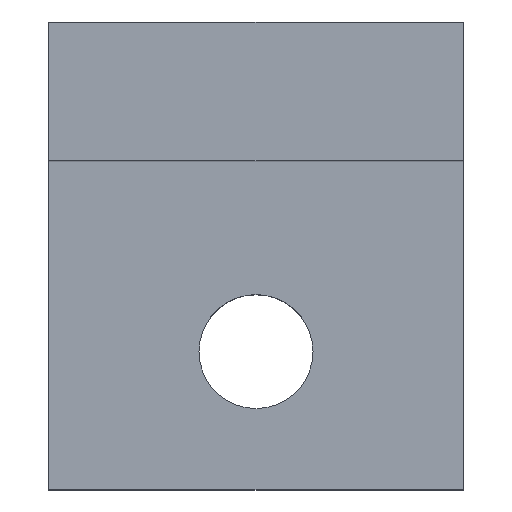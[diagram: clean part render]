
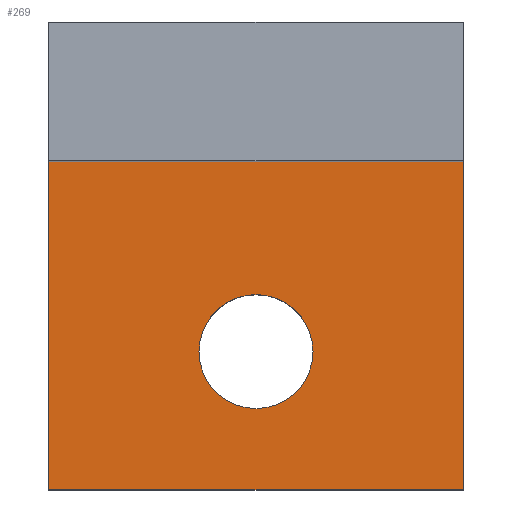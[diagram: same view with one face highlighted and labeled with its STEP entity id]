
A CAD part, top view. The second image highlights one B-rep face of the part: STEP entity #269.
In plain terms, the highlighted planar face has unit normal (0, 0, 1).
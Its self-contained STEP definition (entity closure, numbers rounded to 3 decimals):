
#21 = EDGE_CURVE('',#22,#24,#26,.T.);
#22 = VERTEX_POINT('',#23);
#23 = CARTESIAN_POINT('',(52.,8.5,39.));
#24 = VERTEX_POINT('',#25);
#25 = CARTESIAN_POINT('',(52.,-1.,39.));
#26 = SURFACE_CURVE('',#27,(#31,#43),.PCURVE_S1.);
#27 = LINE('',#28,#29);
#28 = CARTESIAN_POINT('',(52.,-1.,39.));
#29 = VECTOR('',#30,1.);
#30 = DIRECTION('',(0.,-1.,0.));
#31 = PCURVE('',#32,#37);
#32 = PLANE('',#33);
#33 = AXIS2_PLACEMENT_3D('',#34,#35,#36);
#34 = CARTESIAN_POINT('',(52.,-1.,35.));
#35 = DIRECTION('',(1.,0.,0.));
#36 = DIRECTION('',(0.,0.,1.));
#37 = DEFINITIONAL_REPRESENTATION('',(#38),#42);
#38 = LINE('',#39,#40);
#39 = CARTESIAN_POINT('',(4.,0.));
#40 = VECTOR('',#41,1.);
#41 = DIRECTION('',(0.,1.));
#42 = ( GEOMETRIC_REPRESENTATION_CONTEXT(2) 
PARAMETRIC_REPRESENTATION_CONTEXT() REPRESENTATION_CONTEXT('2D SPACE',''
  ) );
#43 = PCURVE('',#44,#49);
#44 = PLANE('',#45);
#45 = AXIS2_PLACEMENT_3D('',#46,#47,#48);
#46 = CARTESIAN_POINT('',(52.,-1.,39.));
#47 = DIRECTION('',(0.,0.,1.));
#48 = DIRECTION('',(1.,0.,0.));
#49 = DEFINITIONAL_REPRESENTATION('',(#50),#54);
#50 = LINE('',#51,#52);
#51 = CARTESIAN_POINT('',(0.,0.));
#52 = VECTOR('',#53,1.);
#53 = DIRECTION('',(0.,-1.));
#54 = ( GEOMETRIC_REPRESENTATION_CONTEXT(2) 
PARAMETRIC_REPRESENTATION_CONTEXT() REPRESENTATION_CONTEXT('2D SPACE',''
  ) );
#72 = PLANE('',#73);
#73 = AXIS2_PLACEMENT_3D('',#74,#75,#76);
#74 = CARTESIAN_POINT('',(52.,8.5,39.));
#75 = DIRECTION('',(0.,1.,0.));
#76 = DIRECTION('',(0.,0.,1.));
#182 = PLANE('',#183);
#183 = AXIS2_PLACEMENT_3D('',#184,#185,#186);
#184 = CARTESIAN_POINT('',(52.,-1.,35.));
#185 = DIRECTION('',(0.,1.,0.));
#186 = DIRECTION('',(0.,0.,1.));
#200 = VERTEX_POINT('',#201);
#201 = CARTESIAN_POINT('',(64.,-1.,39.));
#215 = PLANE('',#216);
#216 = AXIS2_PLACEMENT_3D('',#217,#218,#219);
#217 = CARTESIAN_POINT('',(64.,-1.,35.));
#218 = DIRECTION('',(1.,0.,0.));
#219 = DIRECTION('',(0.,0.,1.));
#227 = EDGE_CURVE('',#24,#200,#228,.T.);
#228 = SURFACE_CURVE('',#229,(#233,#240),.PCURVE_S1.);
#229 = LINE('',#230,#231);
#230 = CARTESIAN_POINT('',(52.,-1.,39.));
#231 = VECTOR('',#232,1.);
#232 = DIRECTION('',(1.,0.,0.));
#233 = PCURVE('',#182,#234);
#234 = DEFINITIONAL_REPRESENTATION('',(#235),#239);
#235 = LINE('',#236,#237);
#236 = CARTESIAN_POINT('',(4.,0.));
#237 = VECTOR('',#238,1.);
#238 = DIRECTION('',(0.,1.));
#239 = ( GEOMETRIC_REPRESENTATION_CONTEXT(2) 
PARAMETRIC_REPRESENTATION_CONTEXT() REPRESENTATION_CONTEXT('2D SPACE',''
  ) );
#240 = PCURVE('',#44,#241);
#241 = DEFINITIONAL_REPRESENTATION('',(#242),#246);
#242 = LINE('',#243,#244);
#243 = CARTESIAN_POINT('',(0.,0.));
#244 = VECTOR('',#245,1.);
#245 = DIRECTION('',(1.,0.));
#246 = ( GEOMETRIC_REPRESENTATION_CONTEXT(2) 
PARAMETRIC_REPRESENTATION_CONTEXT() REPRESENTATION_CONTEXT('2D SPACE',''
  ) );
#269 = ADVANCED_FACE('',(#270,#318),#44,.T.);
#270 = FACE_BOUND('',#271,.T.);
#271 = EDGE_LOOP('',(#272,#273,#274,#297));
#272 = ORIENTED_EDGE('',*,*,#21,.T.);
#273 = ORIENTED_EDGE('',*,*,#227,.T.);
#274 = ORIENTED_EDGE('',*,*,#275,.T.);
#275 = EDGE_CURVE('',#200,#276,#278,.T.);
#276 = VERTEX_POINT('',#277);
#277 = CARTESIAN_POINT('',(64.,8.5,39.));
#278 = SURFACE_CURVE('',#279,(#283,#290),.PCURVE_S1.);
#279 = LINE('',#280,#281);
#280 = CARTESIAN_POINT('',(64.,-1.,39.));
#281 = VECTOR('',#282,1.);
#282 = DIRECTION('',(0.,1.,0.));
#283 = PCURVE('',#44,#284);
#284 = DEFINITIONAL_REPRESENTATION('',(#285),#289);
#285 = LINE('',#286,#287);
#286 = CARTESIAN_POINT('',(12.,0.));
#287 = VECTOR('',#288,1.);
#288 = DIRECTION('',(0.,1.));
#289 = ( GEOMETRIC_REPRESENTATION_CONTEXT(2) 
PARAMETRIC_REPRESENTATION_CONTEXT() REPRESENTATION_CONTEXT('2D SPACE',''
  ) );
#290 = PCURVE('',#215,#291);
#291 = DEFINITIONAL_REPRESENTATION('',(#292),#296);
#292 = LINE('',#293,#294);
#293 = CARTESIAN_POINT('',(4.,0.));
#294 = VECTOR('',#295,1.);
#295 = DIRECTION('',(0.,-1.));
#296 = ( GEOMETRIC_REPRESENTATION_CONTEXT(2) 
PARAMETRIC_REPRESENTATION_CONTEXT() REPRESENTATION_CONTEXT('2D SPACE',''
  ) );
#297 = ORIENTED_EDGE('',*,*,#298,.F.);
#298 = EDGE_CURVE('',#22,#276,#299,.T.);
#299 = SURFACE_CURVE('',#300,(#304,#311),.PCURVE_S1.);
#300 = LINE('',#301,#302);
#301 = CARTESIAN_POINT('',(52.,8.5,39.));
#302 = VECTOR('',#303,1.);
#303 = DIRECTION('',(1.,0.,0.));
#304 = PCURVE('',#44,#305);
#305 = DEFINITIONAL_REPRESENTATION('',(#306),#310);
#306 = LINE('',#307,#308);
#307 = CARTESIAN_POINT('',(0.,9.5));
#308 = VECTOR('',#309,1.);
#309 = DIRECTION('',(1.,0.));
#310 = ( GEOMETRIC_REPRESENTATION_CONTEXT(2) 
PARAMETRIC_REPRESENTATION_CONTEXT() REPRESENTATION_CONTEXT('2D SPACE',''
  ) );
#311 = PCURVE('',#72,#312);
#312 = DEFINITIONAL_REPRESENTATION('',(#313),#317);
#313 = LINE('',#314,#315);
#314 = CARTESIAN_POINT('',(0.,0.));
#315 = VECTOR('',#316,1.);
#316 = DIRECTION('',(0.,1.));
#317 = ( GEOMETRIC_REPRESENTATION_CONTEXT(2) 
PARAMETRIC_REPRESENTATION_CONTEXT() REPRESENTATION_CONTEXT('2D SPACE',''
  ) );
#318 = FACE_BOUND('',#319,.T.);
#319 = EDGE_LOOP('',(#320));
#320 = ORIENTED_EDGE('',*,*,#321,.F.);
#321 = EDGE_CURVE('',#322,#322,#324,.T.);
#322 = VERTEX_POINT('',#323);
#323 = CARTESIAN_POINT('',(59.65,3.,39.));
#324 = SURFACE_CURVE('',#325,(#330,#337),.PCURVE_S1.);
#325 = CIRCLE('',#326,1.65);
#326 = AXIS2_PLACEMENT_3D('',#327,#328,#329);
#327 = CARTESIAN_POINT('',(58.,3.,39.));
#328 = DIRECTION('',(0.,0.,1.));
#329 = DIRECTION('',(1.,0.,0.));
#330 = PCURVE('',#44,#331);
#331 = DEFINITIONAL_REPRESENTATION('',(#332),#336);
#332 = CIRCLE('',#333,1.65);
#333 = AXIS2_PLACEMENT_2D('',#334,#335);
#334 = CARTESIAN_POINT('',(6.,4.));
#335 = DIRECTION('',(1.,0.));
#336 = ( GEOMETRIC_REPRESENTATION_CONTEXT(2) 
PARAMETRIC_REPRESENTATION_CONTEXT() REPRESENTATION_CONTEXT('2D SPACE',''
  ) );
#337 = PCURVE('',#338,#343);
#338 = CYLINDRICAL_SURFACE('',#339,1.65);
#339 = AXIS2_PLACEMENT_3D('',#340,#341,#342);
#340 = CARTESIAN_POINT('',(58.,3.,30.));
#341 = DIRECTION('',(0.,0.,1.));
#342 = DIRECTION('',(1.,0.,0.));
#343 = DEFINITIONAL_REPRESENTATION('',(#344),#348);
#344 = LINE('',#345,#346);
#345 = CARTESIAN_POINT('',(0.,9.));
#346 = VECTOR('',#347,1.);
#347 = DIRECTION('',(1.,0.));
#348 = ( GEOMETRIC_REPRESENTATION_CONTEXT(2) 
PARAMETRIC_REPRESENTATION_CONTEXT() REPRESENTATION_CONTEXT('2D SPACE',''
  ) );
